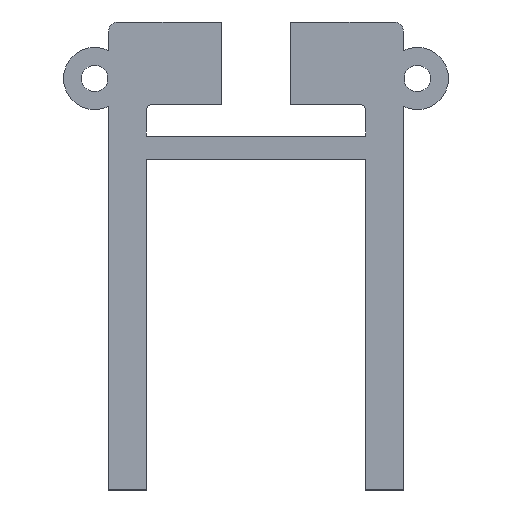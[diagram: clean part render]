
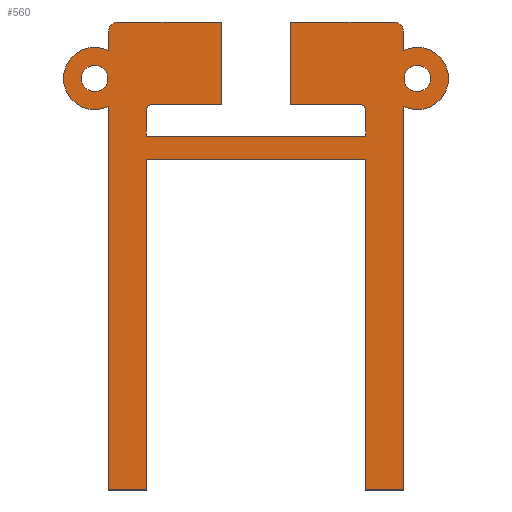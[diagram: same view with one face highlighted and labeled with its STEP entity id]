
A CAD part, top view. The second image highlights one B-rep face of the part: STEP entity #560.
In plain terms, the highlighted planar face has unit normal (0, 0, 1).
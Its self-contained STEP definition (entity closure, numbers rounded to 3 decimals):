
#25=FACE_BOUND('',#85,.T.);
#26=FACE_BOUND('',#86,.T.);
#54=FACE_OUTER_BOUND('',#84,.T.);
#84=EDGE_LOOP('',(#487,#488,#489,#490,#491,#492,#493,#494,#495,#496,#497,
#498,#499,#500,#501,#502,#503,#504,#505,#506,#507,#508,#509,#510));
#85=EDGE_LOOP('',(#511));
#86=EDGE_LOOP('',(#512));
#95=CIRCLE('',#591,2.7);
#96=CIRCLE('',#594,0.8);
#97=CIRCLE('',#599,0.5);
#98=CIRCLE('',#604,0.5);
#99=CIRCLE('',#609,0.8);
#100=CIRCLE('',#612,2.7);
#101=CIRCLE('',#615,1.15);
#102=CIRCLE('',#617,1.15);
#121=LINE('',#828,#183);
#124=LINE('',#833,#186);
#126=LINE('',#837,#188);
#128=LINE('',#841,#190);
#131=LINE('',#846,#193);
#132=LINE('',#849,#194);
#135=LINE('',#857,#197);
#138=LINE('',#865,#200);
#140=LINE('',#869,#202);
#142=LINE('',#873,#204);
#145=LINE('',#881,#207);
#147=LINE('',#885,#209);
#149=LINE('',#889,#211);
#152=LINE('',#897,#214);
#154=LINE('',#901,#216);
#156=LINE('',#905,#218);
#159=LINE('',#913,#221);
#162=LINE('',#920,#224);
#183=VECTOR('',#659,1.);
#186=VECTOR('',#664,1.);
#188=VECTOR('',#668,1.);
#190=VECTOR('',#672,1.);
#193=VECTOR('',#677,1.);
#194=VECTOR('',#680,1.);
#197=VECTOR('',#689,1.);
#200=VECTOR('',#698,1.);
#202=VECTOR('',#702,1.);
#204=VECTOR('',#706,1.);
#207=VECTOR('',#715,1.);
#209=VECTOR('',#719,1.);
#211=VECTOR('',#723,1.);
#214=VECTOR('',#732,1.);
#216=VECTOR('',#736,1.);
#218=VECTOR('',#740,1.);
#221=VECTOR('',#749,1.);
#224=VECTOR('',#758,1.);
#253=VERTEX_POINT('',#826);
#254=VERTEX_POINT('',#827);
#255=VERTEX_POINT('',#832);
#256=VERTEX_POINT('',#836);
#257=VERTEX_POINT('',#840);
#258=VERTEX_POINT('',#844);
#259=VERTEX_POINT('',#848);
#260=VERTEX_POINT('',#852);
#261=VERTEX_POINT('',#856);
#262=VERTEX_POINT('',#860);
#263=VERTEX_POINT('',#864);
#264=VERTEX_POINT('',#868);
#265=VERTEX_POINT('',#872);
#266=VERTEX_POINT('',#876);
#267=VERTEX_POINT('',#880);
#268=VERTEX_POINT('',#884);
#269=VERTEX_POINT('',#888);
#270=VERTEX_POINT('',#892);
#271=VERTEX_POINT('',#896);
#272=VERTEX_POINT('',#900);
#273=VERTEX_POINT('',#904);
#274=VERTEX_POINT('',#908);
#275=VERTEX_POINT('',#912);
#276=VERTEX_POINT('',#916);
#277=VERTEX_POINT('',#922);
#278=VERTEX_POINT('',#926);
#305=EDGE_CURVE('',#253,#254,#121,.T.);
#308=EDGE_CURVE('',#255,#254,#124,.T.);
#310=EDGE_CURVE('',#256,#255,#126,.T.);
#312=EDGE_CURVE('',#257,#256,#128,.T.);
#315=EDGE_CURVE('',#257,#258,#131,.T.);
#316=EDGE_CURVE('',#259,#258,#132,.T.);
#318=EDGE_CURVE('',#260,#259,#95,.T.);
#320=EDGE_CURVE('',#260,#261,#135,.T.);
#322=EDGE_CURVE('',#261,#262,#96,.T.);
#324=EDGE_CURVE('',#262,#263,#138,.T.);
#326=EDGE_CURVE('',#264,#263,#140,.T.);
#328=EDGE_CURVE('',#264,#265,#142,.T.);
#330=EDGE_CURVE('',#266,#265,#97,.T.);
#332=EDGE_CURVE('',#267,#266,#145,.T.);
#334=EDGE_CURVE('',#267,#268,#147,.T.);
#336=EDGE_CURVE('',#269,#268,#149,.T.);
#338=EDGE_CURVE('',#270,#269,#98,.T.);
#340=EDGE_CURVE('',#270,#271,#152,.T.);
#342=EDGE_CURVE('',#272,#271,#154,.T.);
#344=EDGE_CURVE('',#272,#273,#156,.T.);
#346=EDGE_CURVE('',#273,#274,#99,.T.);
#348=EDGE_CURVE('',#275,#274,#159,.T.);
#350=EDGE_CURVE('',#276,#275,#100,.T.);
#352=EDGE_CURVE('',#253,#276,#162,.T.);
#354=EDGE_CURVE('',#277,#277,#101,.T.);
#356=EDGE_CURVE('',#278,#278,#102,.T.);
#487=ORIENTED_EDGE('',*,*,#305,.F.);
#488=ORIENTED_EDGE('',*,*,#352,.T.);
#489=ORIENTED_EDGE('',*,*,#350,.T.);
#490=ORIENTED_EDGE('',*,*,#348,.T.);
#491=ORIENTED_EDGE('',*,*,#346,.F.);
#492=ORIENTED_EDGE('',*,*,#344,.F.);
#493=ORIENTED_EDGE('',*,*,#342,.T.);
#494=ORIENTED_EDGE('',*,*,#340,.F.);
#495=ORIENTED_EDGE('',*,*,#338,.T.);
#496=ORIENTED_EDGE('',*,*,#336,.T.);
#497=ORIENTED_EDGE('',*,*,#334,.F.);
#498=ORIENTED_EDGE('',*,*,#332,.T.);
#499=ORIENTED_EDGE('',*,*,#330,.T.);
#500=ORIENTED_EDGE('',*,*,#328,.F.);
#501=ORIENTED_EDGE('',*,*,#326,.T.);
#502=ORIENTED_EDGE('',*,*,#324,.F.);
#503=ORIENTED_EDGE('',*,*,#322,.F.);
#504=ORIENTED_EDGE('',*,*,#320,.F.);
#505=ORIENTED_EDGE('',*,*,#318,.T.);
#506=ORIENTED_EDGE('',*,*,#316,.T.);
#507=ORIENTED_EDGE('',*,*,#315,.F.);
#508=ORIENTED_EDGE('',*,*,#312,.T.);
#509=ORIENTED_EDGE('',*,*,#310,.T.);
#510=ORIENTED_EDGE('',*,*,#308,.T.);
#511=ORIENTED_EDGE('',*,*,#354,.F.);
#512=ORIENTED_EDGE('',*,*,#356,.F.);
#532=PLANE('',#618);
#560=ADVANCED_FACE('',(#54,#25,#26),#532,.T.);
#591=AXIS2_PLACEMENT_3D('',#853,#684,#685);
#594=AXIS2_PLACEMENT_3D('',#861,#693,#694);
#599=AXIS2_PLACEMENT_3D('',#877,#710,#711);
#604=AXIS2_PLACEMENT_3D('',#893,#727,#728);
#609=AXIS2_PLACEMENT_3D('',#909,#744,#745);
#612=AXIS2_PLACEMENT_3D('',#917,#753,#754);
#615=AXIS2_PLACEMENT_3D('',#924,#762,#763);
#617=AXIS2_PLACEMENT_3D('',#928,#767,#768);
#618=AXIS2_PLACEMENT_3D('',#929,#769,#770);
#659=DIRECTION('',(-1.,0.,0.));
#664=DIRECTION('',(0.,-1.,0.));
#668=DIRECTION('',(1.,0.,0.));
#672=DIRECTION('',(0.,1.,0.));
#677=DIRECTION('',(-1.,0.,0.));
#680=DIRECTION('',(0.,-1.,0.));
#684=DIRECTION('center_axis',(0.,0.,1.));
#685=DIRECTION('ref_axis',(1.,0.,0.));
#689=DIRECTION('',(0.,1.,0.));
#693=DIRECTION('center_axis',(0.,0.,-1.));
#694=DIRECTION('ref_axis',(-1.,0.,0.));
#698=DIRECTION('',(1.,0.,0.));
#702=DIRECTION('',(0.,1.,0.));
#706=DIRECTION('',(-1.,0.,0.));
#710=DIRECTION('center_axis',(0.,0.,-1.));
#711=DIRECTION('ref_axis',(1.,0.,0.));
#715=DIRECTION('',(0.,1.,0.));
#719=DIRECTION('',(1.,0.,0.));
#723=DIRECTION('',(0.,-1.,0.));
#727=DIRECTION('center_axis',(0.,0.,-1.));
#728=DIRECTION('ref_axis',(1.,0.,0.));
#732=DIRECTION('',(-1.,0.,0.));
#736=DIRECTION('',(0.,-1.,0.));
#740=DIRECTION('',(1.,0.,0.));
#744=DIRECTION('center_axis',(0.,0.,-1.));
#745=DIRECTION('ref_axis',(-1.,0.,0.));
#749=DIRECTION('',(0.,1.,0.));
#753=DIRECTION('center_axis',(0.,0.,1.));
#754=DIRECTION('ref_axis',(-0.444,-0.896,0.));
#758=DIRECTION('',(0.,1.,0.));
#762=DIRECTION('center_axis',(0.,0.,1.));
#763=DIRECTION('ref_axis',(1.,0.,0.));
#767=DIRECTION('center_axis',(0.,0.,1.));
#768=DIRECTION('ref_axis',(1.,0.,0.));
#769=DIRECTION('center_axis',(0.,0.,1.));
#770=DIRECTION('ref_axis',(1.,0.,0.));
#826=CARTESIAN_POINT('',(12.8,28.3,-19.13));
#827=CARTESIAN_POINT('',(9.5,28.3,-19.13));
#828=CARTESIAN_POINT('',(-15.,28.3,-19.13));
#832=CARTESIAN_POINT('',(9.5,57.,-19.13));
#833=CARTESIAN_POINT('',(9.5,61.25,-19.13));
#836=CARTESIAN_POINT('',(-9.5,57.,-19.13));
#837=CARTESIAN_POINT('',(-12.8,57.,-19.13));
#840=CARTESIAN_POINT('',(-9.5,28.3,-19.13));
#841=CARTESIAN_POINT('',(-9.5,-34.25,-19.13));
#844=CARTESIAN_POINT('',(-12.8,28.3,-19.13));
#846=CARTESIAN_POINT('',(-15.,28.3,-19.13));
#848=CARTESIAN_POINT('',(-12.8,61.581,-19.13));
#849=CARTESIAN_POINT('',(-12.8,61.581,-19.13));
#852=CARTESIAN_POINT('',(-12.8,66.419,-19.13));
#853=CARTESIAN_POINT('Origin',(-14.,64.,-19.13));
#856=CARTESIAN_POINT('',(-12.8,68.1,-19.13));
#857=CARTESIAN_POINT('',(-12.8,16.5,-19.13));
#860=CARTESIAN_POINT('',(-12.,68.9,-19.13));
#861=CARTESIAN_POINT('Origin',(-12.,68.1,-19.13));
#864=CARTESIAN_POINT('',(-3.,68.9,-19.13));
#865=CARTESIAN_POINT('',(0.,68.9,-19.13));
#868=CARTESIAN_POINT('',(-3.,61.75,-19.13));
#869=CARTESIAN_POINT('',(-3.,61.75,-19.13));
#872=CARTESIAN_POINT('',(-9.,61.75,-19.13));
#873=CARTESIAN_POINT('',(-4.5,61.75,-19.13));
#876=CARTESIAN_POINT('',(-9.5,61.25,-19.13));
#877=CARTESIAN_POINT('Origin',(-9.,61.25,-19.13));
#880=CARTESIAN_POINT('',(-9.5,59.,-19.13));
#881=CARTESIAN_POINT('',(-9.5,-34.25,-19.13));
#884=CARTESIAN_POINT('',(9.5,59.,-19.13));
#885=CARTESIAN_POINT('',(-12.8,59.,-19.13));
#888=CARTESIAN_POINT('',(9.5,61.25,-19.13));
#889=CARTESIAN_POINT('',(9.5,61.25,-19.13));
#892=CARTESIAN_POINT('',(9.,61.75,-19.13));
#893=CARTESIAN_POINT('Origin',(9.,61.25,-19.13));
#896=CARTESIAN_POINT('',(3.,61.75,-19.13));
#897=CARTESIAN_POINT('',(-4.5,61.75,-19.13));
#900=CARTESIAN_POINT('',(3.,68.9,-19.13));
#901=CARTESIAN_POINT('',(3.,68.9,-19.13));
#904=CARTESIAN_POINT('',(12.,68.9,-19.13));
#905=CARTESIAN_POINT('',(0.,68.9,-19.13));
#908=CARTESIAN_POINT('',(12.8,68.1,-19.13));
#909=CARTESIAN_POINT('Origin',(12.,68.1,-19.13));
#912=CARTESIAN_POINT('',(12.8,66.419,-19.13));
#913=CARTESIAN_POINT('',(12.8,16.5,-19.13));
#916=CARTESIAN_POINT('',(12.8,61.581,-19.13));
#917=CARTESIAN_POINT('Origin',(14.,64.,-19.13));
#920=CARTESIAN_POINT('',(12.8,-29.581,-19.13));
#922=CARTESIAN_POINT('',(-15.15,64.,-19.13));
#924=CARTESIAN_POINT('Origin',(-14.,64.,-19.13));
#926=CARTESIAN_POINT('',(12.85,64.,-19.13));
#928=CARTESIAN_POINT('Origin',(14.,64.,-19.13));
#929=CARTESIAN_POINT('Origin',(0.,16.5,-19.13));
